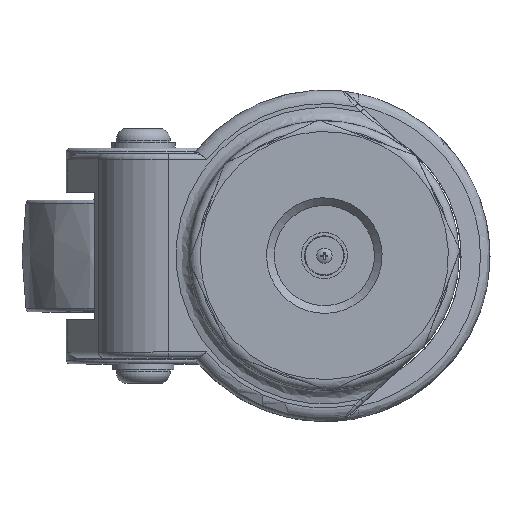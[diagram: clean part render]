
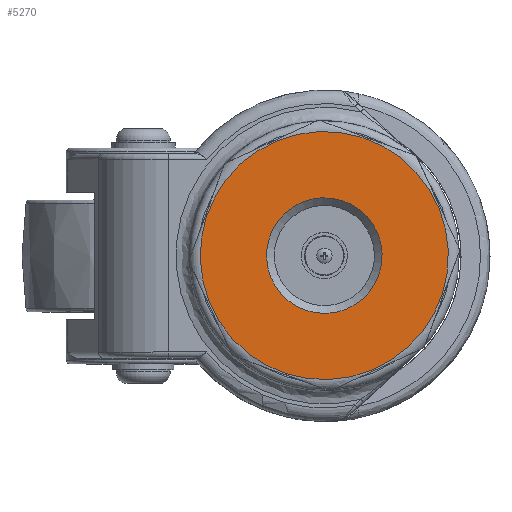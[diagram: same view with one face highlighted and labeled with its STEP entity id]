
A CAD part, top view. The second image highlights one B-rep face of the part: STEP entity #5270.
In plain terms, the highlighted planar face has unit normal (0, 0, 1).
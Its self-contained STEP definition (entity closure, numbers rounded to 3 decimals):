
#5239=CARTESIAN_POINT('',(54.48,-91.192,56.679));
#5240=VERTEX_POINT('',#5239);
#5241=CARTESIAN_POINT('',(53.17,-59.019,56.679));
#5242=DIRECTION('',(0.,0.,-1.0));
#5243=DIRECTION('',(-0.041,0.999,0.));
#5244=AXIS2_PLACEMENT_3D('',#5241,#5242,#5243);
#5245=CIRCLE('',#5244,32.2);
#5246=EDGE_CURVE('',#5240,#5240,#5245,.T.);
#5251=CARTESIAN_POINT('',(54.191,-84.098,56.679));
#5252=DIRECTION('',(0.0,0.0,1.0));
#5253=DIRECTION('',(0.999,0.041,0.0));
#5254=AXIS2_PLACEMENT_3D('',#5251,#5252,#5253);
#5255=PLANE('',#5254);
#5256=ORIENTED_EDGE('',*,*,#5246,.F.);
#5257=EDGE_LOOP('',(#5256));
#5258=FACE_OUTER_BOUND('',#5257,.T.);
#5259=CARTESIAN_POINT('',(53.78,-74.006,56.679));
#5260=VERTEX_POINT('',#5259);
#5261=CARTESIAN_POINT('',(53.17,-59.019,56.679));
#5262=DIRECTION('',(0.,0.,1.0));
#5263=DIRECTION('',(0.041,-0.999,0.));
#5264=AXIS2_PLACEMENT_3D('',#5261,#5262,#5263);
#5265=CIRCLE('',#5264,15.);
#5266=EDGE_CURVE('',#5260,#5260,#5265,.T.);
#5267=ORIENTED_EDGE('',*,*,#5266,.F.);
#5268=EDGE_LOOP('',(#5267));
#5269=FACE_BOUND('',#5268,.T.);
#5270=ADVANCED_FACE('',(#5258,#5269),#5255,.T.);
